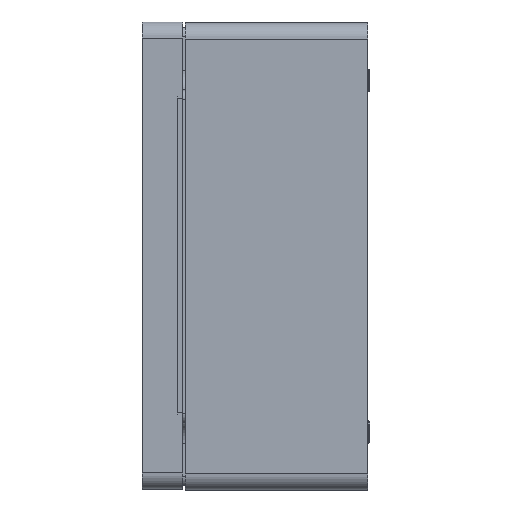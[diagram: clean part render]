
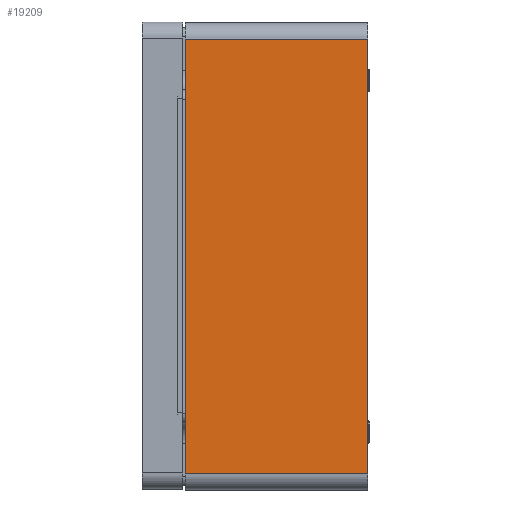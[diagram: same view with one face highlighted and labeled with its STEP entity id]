
A CAD part, left-side view. The second image highlights one B-rep face of the part: STEP entity #19209.
In plain terms, the highlighted planar face has unit normal (-1, 0, 0).
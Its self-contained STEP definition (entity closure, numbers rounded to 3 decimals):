
#1179 = EDGE_CURVE ( 'NONE', #26437, #9772, #22156, .T. ) ;
#1223 = VERTEX_POINT ( 'NONE', #7370 ) ;
#1620 = DIRECTION ( 'NONE',  ( 1., 0., 0. ) ) ;
#1828 = VECTOR ( 'NONE', #3229, 1000. ) ;
#2646 = DIRECTION ( 'NONE',  ( 0., -1., 0. ) ) ;
#2737 = DIRECTION ( 'NONE',  ( 0., 1., 0. ) ) ;
#3229 = DIRECTION ( 'NONE',  ( 0., 0., 1. ) ) ;
#5219 = CARTESIAN_POINT ( 'NONE',  ( -100., 0., -115. ) ) ;
#5541 = EDGE_CURVE ( 'NONE', #1223, #9772, #5558, .T. ) ;
#5558 = LINE ( 'NONE', #14153, #25825 ) ;
#6714 = VERTEX_POINT ( 'NONE', #23174 ) ;
#6870 = LINE ( 'NONE', #15458, #10799 ) ;
#7060 = AXIS2_PLACEMENT_3D ( 'NONE', #23145, #1620, #16968 ) ;
#7370 = CARTESIAN_POINT ( 'NONE',  ( -100., 90., -107. ) ) ;
#7407 = EDGE_CURVE ( 'NONE', #6714, #26437, #12113, .T. ) ;
#9772 = VERTEX_POINT ( 'NONE', #18562 ) ;
#10799 = VECTOR ( 'NONE', #2646, 1000. ) ;
#12113 = LINE ( 'NONE', #5219, #1828 ) ;
#12616 = VECTOR ( 'NONE', #2737, 1000. ) ;
#13726 = CARTESIAN_POINT ( 'NONE',  ( -100., 90., 107. ) ) ;
#14153 = CARTESIAN_POINT ( 'NONE',  ( -100., 90., -115. ) ) ;
#15458 = CARTESIAN_POINT ( 'NONE',  ( -100., 90., -107. ) ) ;
#16968 = DIRECTION ( 'NONE',  ( 0., 0., -1. ) ) ;
#18562 = CARTESIAN_POINT ( 'NONE',  ( -100., 90., 107. ) ) ;
#19209 = ADVANCED_FACE ( 'NONE', ( #25245 ), #23424, .F. ) ;
#19991 = ORIENTED_EDGE ( 'NONE', *, *, #5541, .F. ) ;
#22156 = LINE ( 'NONE', #13726, #12616 ) ;
#22227 = ORIENTED_EDGE ( 'NONE', *, *, #7407, .T. ) ;
#22544 = ORIENTED_EDGE ( 'NONE', *, *, #27199, .T. ) ;
#22623 = EDGE_LOOP ( 'NONE', ( #22227, #26930, #19991, #22544 ) ) ;
#22714 = DIRECTION ( 'NONE',  ( 0., 0., 1. ) ) ;
#23145 = CARTESIAN_POINT ( 'NONE',  ( -100., 90., -115. ) ) ;
#23174 = CARTESIAN_POINT ( 'NONE',  ( -100., 0., -107. ) ) ;
#23424 = PLANE ( 'NONE',  #7060 ) ;
#25245 = FACE_OUTER_BOUND ( 'NONE', #22623, .T. ) ;
#25825 = VECTOR ( 'NONE', #22714, 1000. ) ;
#26437 = VERTEX_POINT ( 'NONE', #27030 ) ;
#26930 = ORIENTED_EDGE ( 'NONE', *, *, #1179, .T. ) ;
#27030 = CARTESIAN_POINT ( 'NONE',  ( -100., 0., 107. ) ) ;
#27199 = EDGE_CURVE ( 'NONE', #1223, #6714, #6870, .T. ) ;
